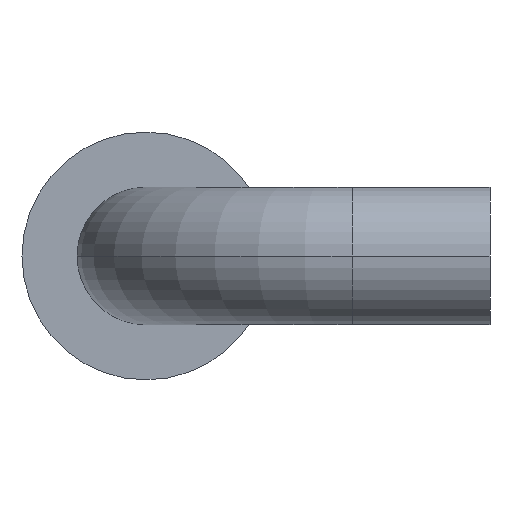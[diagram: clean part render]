
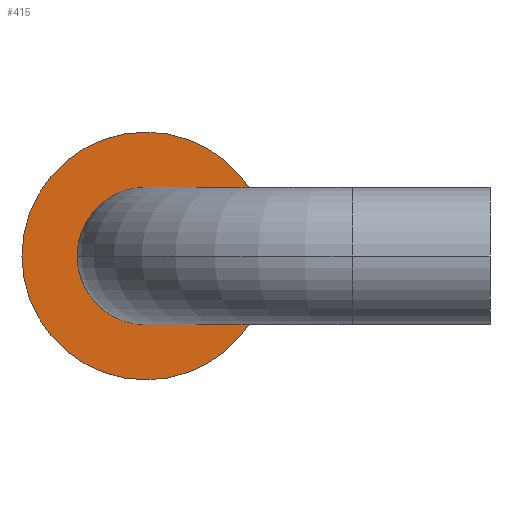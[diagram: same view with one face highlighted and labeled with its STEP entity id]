
A CAD part, front view. The second image highlights one B-rep face of the part: STEP entity #415.
In plain terms, the highlighted planar face has unit normal (0, -1, 0).
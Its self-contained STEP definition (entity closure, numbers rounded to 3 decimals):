
#19=CARTESIAN_POINT('',(0.,0.,0.));
#20=DIRECTION('',(0.,-1.,0.));
#21=DIRECTION('',(1.,0.,0.));
#22=AXIS2_PLACEMENT_3D('',#19,#20,#21);
#28=CARTESIAN_POINT('',(0.,0.,0.));
#29=DIRECTION('',(0.,-1.,0.));
#30=DIRECTION('',(-1.,0.,0.));
#31=AXIS2_PLACEMENT_3D('',#28,#29,#30);
#36=CARTESIAN_POINT('',(0.,0.,0.));
#37=DIRECTION('',(0.,-1.,0.));
#38=DIRECTION('',(1.,0.,0.));
#39=AXIS2_PLACEMENT_3D('',#36,#37,#38);
#58=CARTESIAN_POINT('',(0.,0.,0.));
#59=DIRECTION('',(0.,1.,0.));
#60=DIRECTION('',(1.,0.,0.));
#61=AXIS2_PLACEMENT_3D('',#58,#59,#60);
#360=CARTESIAN_POINT('',(4.5,0.,0.));
#362=VERTEX_POINT('',#360);
#364=CARTESIAN_POINT('',(-4.5,0.,0.));
#366=VERTEX_POINT('',#364);
#384=CARTESIAN_POINT('',(2.5,0.,0.));
#385=CARTESIAN_POINT('',(-2.5,0.,0.));
#386=VERTEX_POINT('',#384);
#387=VERTEX_POINT('',#385);
#398=CARTESIAN_POINT('',(0.,0.,0.));
#399=DIRECTION('',(0.,-1.,0.));
#400=DIRECTION('',(-1.,0.,0.));
#401=AXIS2_PLACEMENT_3D('',#398,#399,#400);
#402=PLANE('',#401);
#404=ORIENTED_EDGE('',*,*,#403,.F.);
#406=ORIENTED_EDGE('',*,*,#405,.T.);
#407=EDGE_LOOP('',(#404,#406));
#408=FACE_OUTER_BOUND('',#407,.F.);
#410=ORIENTED_EDGE('',*,*,#409,.T.);
#412=ORIENTED_EDGE('',*,*,#411,.T.);
#413=EDGE_LOOP('',(#410,#412));
#414=FACE_BOUND('',#413,.F.);
#23=CIRCLE('',#22,2.5);
#32=CIRCLE('',#31,2.5);
#40=CIRCLE('',#39,4.5);
#62=CIRCLE('',#61,4.5);
#403=EDGE_CURVE('',#362,#366,#40,.T.);
#405=EDGE_CURVE('',#362,#366,#62,.T.);
#409=EDGE_CURVE('',#386,#387,#23,.T.);
#411=EDGE_CURVE('',#387,#386,#32,.T.);
#415=ADVANCED_FACE('',(#408,#414),#402,.T.);
